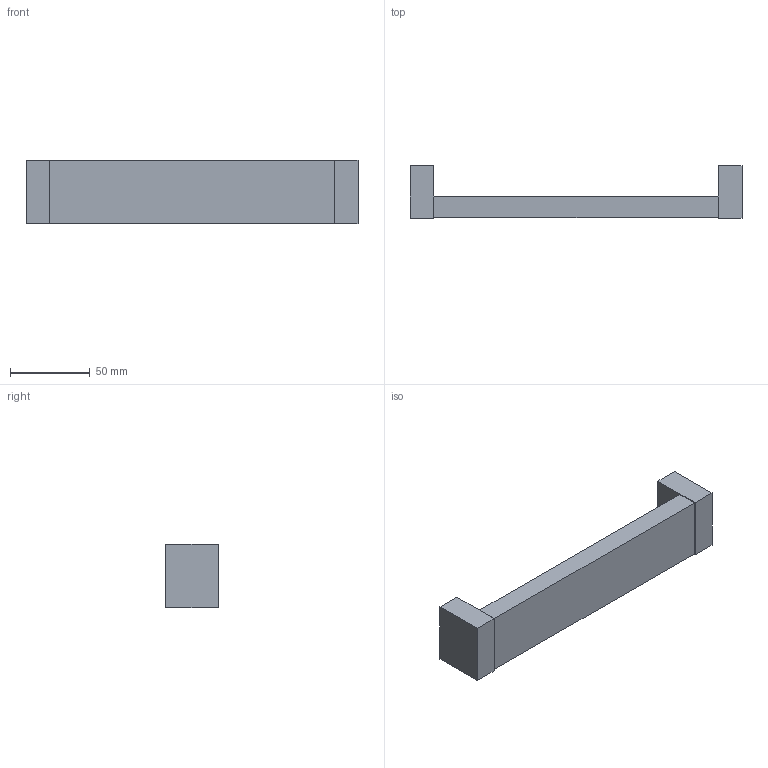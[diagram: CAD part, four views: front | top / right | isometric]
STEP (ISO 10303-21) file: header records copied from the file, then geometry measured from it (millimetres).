
FILE_DESCRIPTION( ( 'STEP AP214' ), '1' );
FILE_NAME( 'C:/Users/swati/Swati/Swati/29-02-2016/9207452/9207452.stp', ' ', ( ' ' ), ( ' ' ), 'PSStep 15.0.47', 'PARTsolutions', ' ' );
FILE_SCHEMA( ( 'AUTOMOTIVE_DESIGN { 1 0 10303 214 1 1 1 1 }' ) );
Length unit declared in the file: millimetre
Products named in the file (2): 95 ; _
Assembly tree (1 placements, depth 2):
  95 
    _
Bounding box: 208 x 33 x 40 mm (x, y, z)
Volume: 129594.7 mm3; surface area: 27409.3 mm2
Topology: 1 solids, 1 shells, 20 faces, 42 edges, 28 vertices
Faces by surface type: plane 18, cylinder 2
Full cylindrical faces by diameter (mm): 4 x2
Entity records: 718 total; most frequent: CARTESIAN_POINT 90, DIRECTION 88, ORIENTED_EDGE 80, EDGE_CURVE 40, LINE 36, VECTOR 36, VERTEX_POINT 28, AXIS2_PLACEMENT_3D 26
